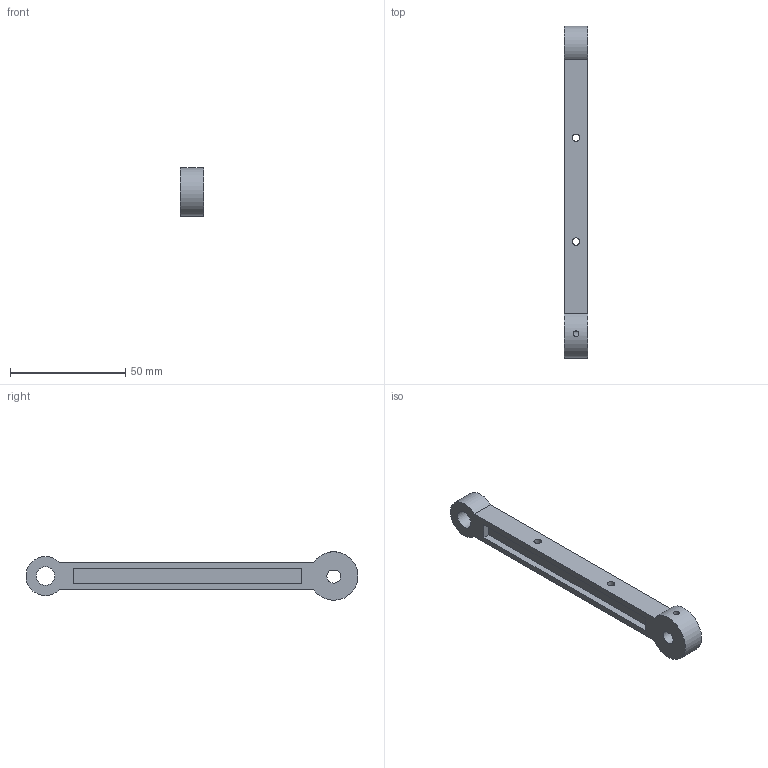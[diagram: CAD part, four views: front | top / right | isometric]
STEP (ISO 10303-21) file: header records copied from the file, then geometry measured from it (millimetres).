
FILE_DESCRIPTION(('Open CASCADE Model'),'2;1');
FILE_NAME('Open CASCADE Shape Model','2026-10-16T00:24:49',('Author'),( 'Open CASCADE'),'Open CASCADE STEP processor 7.9','Open CASCADE 7.9' ,'Unknown');
FILE_SCHEMA(('AUTOMOTIVE_DESIGN { 1 0 10303 214 1 1 1 1 }'));
Length unit declared in the file: millimetre
Products named in the file (1): Open CASCADE STEP translator 7.9 4
Bounding box: 10 x 143.93 x 20.96 mm (x, y, z)
Volume: 13565 mm3; surface area: 8679.5 mm2
Topology: 1 solids, 1 shells, 22 faces, 54 edges, 36 vertices
Faces by surface type: plane 15, cylinder 7
Full cylindrical faces by diameter (mm): 2.5 x1, 3.2 x2, 8 x1
Entity records: 1515 total; most frequent: CARTESIAN_POINT 440, DIRECTION 183, LINE 109, VECTOR 109, ORIENTED_EDGE 108, PCURVE 108, DEFINITIONAL_REPRESENTATION 108, EDGE_CURVE 54
